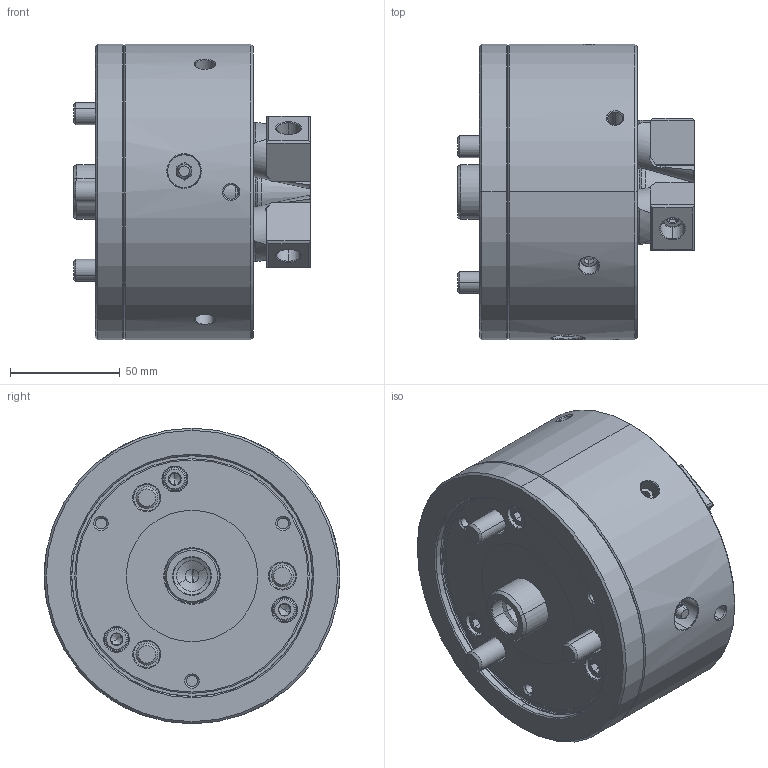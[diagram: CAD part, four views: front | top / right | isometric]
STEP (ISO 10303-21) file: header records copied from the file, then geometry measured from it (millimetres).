
FILE_DESCRIPTION (( 'STEP AP214' ), '1' );
FILE_NAME ('HP_PUE05_TEMPLATE_CL.STEP', '2022-03-22T23:07:01', ( '' ), ( '' ), 'SwSTEP 2.0', 'SolidWorks 2020', '' );
FILE_SCHEMA (( 'AUTOMOTIVE_DESIGN' ));
Length unit declared in the file: millimetre
Products named in the file (1): HP_PUE05_TEMPLATE_CL
Bounding box: 108.19 x 135 x 135 mm (x, y, z)
Volume: 1005772.3 mm3; surface area: 114537.3 mm2
Topology: 7 solids, 14 shells, 1165 faces, 2889 edges, 1794 vertices
Faces by surface type: plane 463, cone 316, cylinder 239, bspline 124, torus 23
Entity records: 58491 total; most frequent: CARTESIAN_POINT 19695, ORIENTED_EDGE 5618, DIRECTION 4805, EDGE_CURVE 2809, VERTEX_POINT 1794, AXIS2_PLACEMENT_3D 1699, VECTOR 1407, LINE 1407
